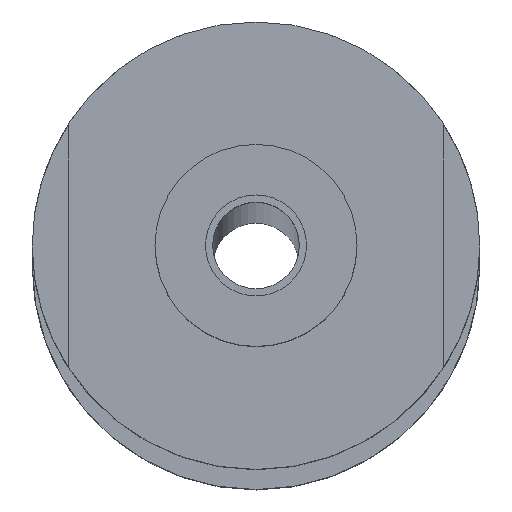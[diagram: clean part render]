
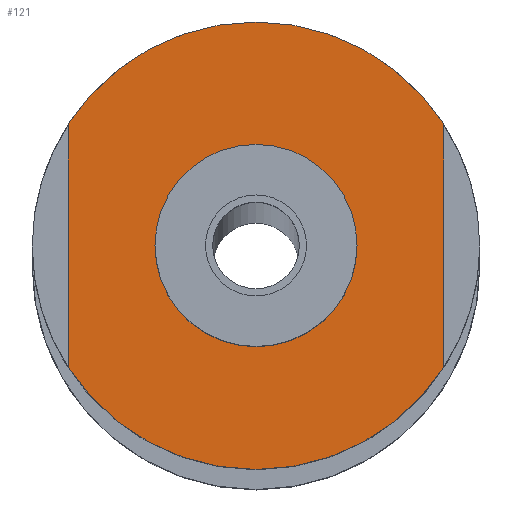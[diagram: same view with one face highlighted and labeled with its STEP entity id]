
A CAD part, top view. The second image highlights one B-rep face of the part: STEP entity #121.
In plain terms, the highlighted planar face has unit normal (0, 0, 1).
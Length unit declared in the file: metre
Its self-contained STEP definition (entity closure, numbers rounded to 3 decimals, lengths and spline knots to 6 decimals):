
#121=ADVANCED_FACE('37:1511',(#238,#239),#240,.T.);
#238=FACE_OUTER_BOUND('',#364,.T.);
#239=FACE_BOUND('',#365,.T.);
#240=PLANE('',#366);
#364=EDGE_LOOP('',(#596,#597,#598,#599,#600,#601));
#365=EDGE_LOOP('',(#602,#603));
#366=AXIS2_PLACEMENT_3D('',#604,#605,#606);
#596=ORIENTED_EDGE('',*,*,#761,.F.);
#597=ORIENTED_EDGE('',*,*,#760,.F.);
#598=ORIENTED_EDGE('',*,*,#756,.F.);
#599=ORIENTED_EDGE('',*,*,#688,.F.);
#600=ORIENTED_EDGE('',*,*,#687,.F.);
#601=ORIENTED_EDGE('',*,*,#751,.T.);
#602=ORIENTED_EDGE('',*,*,#749,.F.);
#603=ORIENTED_EDGE('',*,*,#693,.F.);
#604=CARTESIAN_POINT('',(0.0,0.0,3.175));
#605=DIRECTION('',(0.0,0.0,1.0));
#606=DIRECTION('',(1.0,0.0,0.0));
#687=EDGE_CURVE('37:1561',#812,#814,#815,.F.);
#688=EDGE_CURVE('37:1552',#814,#816,#817,.F.);
#693=EDGE_CURVE('',#822,#825,#826,.T.);
#749=EDGE_CURVE('37:1539',#825,#822,#907,.T.);
#751=EDGE_CURVE('37:3142',#812,#909,#910,.T.);
#756=EDGE_CURVE('37:2641',#816,#917,#918,.F.);
#760=EDGE_CURVE('37:1558',#917,#922,#923,.F.);
#761=EDGE_CURVE('37:1549',#922,#909,#924,.F.);
#812=VERTEX_POINT('',#1001);
#814=VERTEX_POINT('',#1004);
#815=CIRCLE('',#1005,0.0155);
#816=VERTEX_POINT('',#1006);
#817=CIRCLE('',#1007,0.0155);
#822=VERTEX_POINT('',#1013);
#825=VERTEX_POINT('',#1017);
#826=CIRCLE('',#1018,0.007);
#907=CIRCLE('',#1116,0.007);
#909=VERTEX_POINT('',#1118);
#910=LINE('',#1119,#1120);
#917=VERTEX_POINT('',#1130);
#918=LINE('',#1131,#1132);
#922=VERTEX_POINT('',#1137);
#923=CIRCLE('',#1138,0.0155);
#924=CIRCLE('',#1139,0.0155);
#1001=CARTESIAN_POINT('',(-0.013092,0.008536,3.175));
#1004=CARTESIAN_POINT('',(-0.000092,0.015595,3.175));
#1005=AXIS2_PLACEMENT_3D('',#1221,#1222,#1223);
#1006=CARTESIAN_POINT('',(0.012908,0.008536,3.175));
#1007=AXIS2_PLACEMENT_3D('',#1224,#1225,#1226);
#1013=CARTESIAN_POINT('',(0.006908,0.000095,3.175));
#1017=CARTESIAN_POINT('',(-0.007092,0.000095,3.175));
#1018=AXIS2_PLACEMENT_3D('',#1232,#1233,#1234);
#1116=AXIS2_PLACEMENT_3D('',#1318,#1319,#1320);
#1118=CARTESIAN_POINT('',(-0.013092,-0.008346,3.175));
#1119=CARTESIAN_POINT('',(-0.013092,0.000048,3.175));
#1120=VECTOR('',#1321,1.0);
#1130=CARTESIAN_POINT('',(0.012908,-0.008346,3.175));
#1131=CARTESIAN_POINT('',(0.012908,0.000048,3.175));
#1132=VECTOR('',#1325,1.0);
#1137=CARTESIAN_POINT('',(-0.000092,-0.015405,3.175));
#1138=AXIS2_PLACEMENT_3D('',#1330,#1331,#1332);
#1139=AXIS2_PLACEMENT_3D('',#1333,#1334,#1335);
#1221=CARTESIAN_POINT('',(-0.000092,0.000095,3.175));
#1222=DIRECTION('',(0.0,0.0,1.0));
#1223=DIRECTION('',(1.0,0.0,0.0));
#1224=CARTESIAN_POINT('',(-0.000092,0.000095,3.175));
#1225=DIRECTION('',(0.0,0.0,1.0));
#1226=DIRECTION('',(1.0,0.0,0.0));
#1232=CARTESIAN_POINT('',(-0.000092,0.000095,3.175));
#1233=DIRECTION('',(0.0,0.0,1.0));
#1234=DIRECTION('',(1.0,0.0,-0.0));
#1318=CARTESIAN_POINT('',(-0.000092,0.000095,3.175));
#1319=DIRECTION('',(0.0,0.0,1.0));
#1320=DIRECTION('',(1.0,0.0,-0.0));
#1321=DIRECTION('',(0.,-1.0,0.0));
#1325=DIRECTION('',(0.,1.0,0.0));
#1330=CARTESIAN_POINT('',(-0.000092,0.000095,3.175));
#1331=DIRECTION('',(0.0,0.0,1.0));
#1332=DIRECTION('',(1.0,0.0,0.0));
#1333=CARTESIAN_POINT('',(-0.000092,0.000095,3.175));
#1334=DIRECTION('',(0.0,0.0,1.0));
#1335=DIRECTION('',(1.0,0.0,0.0));
